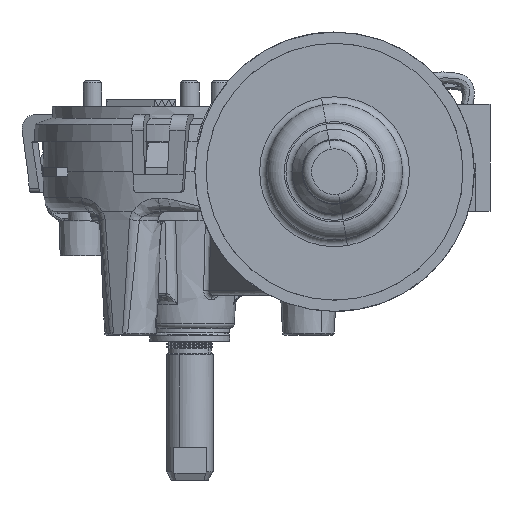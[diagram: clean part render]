
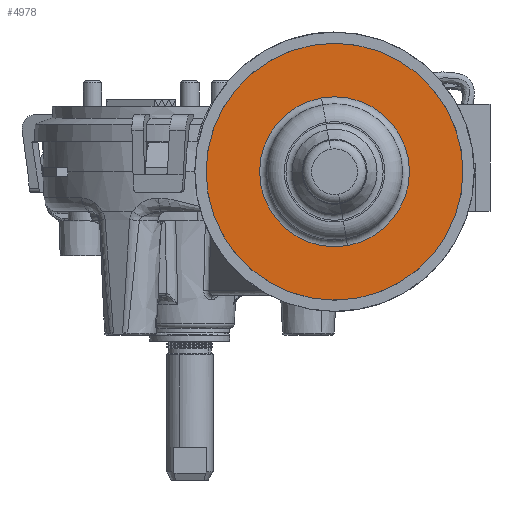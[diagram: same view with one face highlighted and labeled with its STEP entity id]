
A CAD part, front view. The second image highlights one B-rep face of the part: STEP entity #4978.
In plain terms, the highlighted planar face has unit normal (0, -1, 0).
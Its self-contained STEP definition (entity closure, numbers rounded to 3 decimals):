
#817=PLANE('',#25392);
#1111=FACE_BOUND('',#7806,.T.);
#1112=FACE_BOUND('',#7807,.T.);
#4978=ADVANCED_FACE('',(#1111,#1112),#817,.T.);
#7806=EDGE_LOOP('',(#13141,#13142,#13143,#13144,#13145,#13146,#13147,#13148,
#13149,#13150));
#7807=EDGE_LOOP('',(#13151,#13152));
#8902=CIRCLE('',#25026,27.5);
#8903=CIRCLE('',#25028,27.5);
#8904=CIRCLE('',#25029,27.5);
#8905=CIRCLE('',#25031,27.5);
#8906=CIRCLE('',#25035,27.5);
#8907=CIRCLE('',#25037,27.5);
#8908=CIRCLE('',#25039,27.5);
#8909=CIRCLE('',#25040,27.5);
#8910=CIRCLE('',#25042,27.5);
#8911=CIRCLE('',#25044,27.5);
#9021=CIRCLE('',#25390,16.05);
#9022=CIRCLE('',#25391,16.05);
#13141=ORIENTED_EDGE('',*,*,#20637,.F.);
#13142=ORIENTED_EDGE('',*,*,#20639,.F.);
#13143=ORIENTED_EDGE('',*,*,#20641,.F.);
#13144=ORIENTED_EDGE('',*,*,#20643,.F.);
#13145=ORIENTED_EDGE('',*,*,#20640,.F.);
#13146=ORIENTED_EDGE('',*,*,#20636,.F.);
#13147=ORIENTED_EDGE('',*,*,#20631,.F.);
#13148=ORIENTED_EDGE('',*,*,#20633,.F.);
#13149=ORIENTED_EDGE('',*,*,#20642,.F.);
#13150=ORIENTED_EDGE('',*,*,#20632,.F.);
#13151=ORIENTED_EDGE('',*,*,#21388,.T.);
#13152=ORIENTED_EDGE('',*,*,#21389,.T.);
#17401=VERTEX_POINT('',#36153);
#17408=VERTEX_POINT('',#36182);
#17417=VERTEX_POINT('',#36206);
#17420=VERTEX_POINT('',#36217);
#17422=VERTEX_POINT('',#36225);
#17423=VERTEX_POINT('',#36233);
#17425=VERTEX_POINT('',#36238);
#17428=VERTEX_POINT('',#36249);
#17866=VERTEX_POINT('',#40447);
#17867=VERTEX_POINT('',#40460);
#18329=VERTEX_POINT('',#46410);
#18330=VERTEX_POINT('',#46411);
#20631=EDGE_CURVE('GENERATED CIRCLE',#17401,#17866,#8902,.T.);
#20632=EDGE_CURVE('GENERATED CIRCLE',#17408,#17417,#8903,.T.);
#20633=EDGE_CURVE('GENERATED CIRCLE',#17420,#17401,#8904,.T.);
#20636=EDGE_CURVE('GENERATED CIRCLE',#17866,#17423,#8905,.T.);
#20637=EDGE_CURVE('GENERATED CIRCLE',#17867,#17408,#8906,.T.);
#20639=EDGE_CURVE('GENERATED CIRCLE',#17422,#17867,#8907,.T.);
#20640=EDGE_CURVE('GENERATED CIRCLE',#17423,#17425,#8908,.T.);
#20641=EDGE_CURVE('GENERATED CIRCLE',#17428,#17422,#8909,.T.);
#20642=EDGE_CURVE('GENERATED CIRCLE',#17417,#17420,#8910,.T.);
#20643=EDGE_CURVE('GENERATED CIRCLE',#17425,#17428,#8911,.T.);
#21388=EDGE_CURVE('GENERATED CIRCLE',#18329,#18330,#9021,.T.);
#21389=EDGE_CURVE('GENERATED CIRCLE',#18330,#18329,#9022,.T.);
#25026=AXIS2_PLACEMENT_3D('',#40448,#28087,#28088);
#25028=AXIS2_PLACEMENT_3D('',#40450,#28091,#28092);
#25029=AXIS2_PLACEMENT_3D('',#40451,#28093,#28094);
#25031=AXIS2_PLACEMENT_3D('',#40455,#28099,#28100);
#25035=AXIS2_PLACEMENT_3D('',#40459,#28107,#28108);
#25037=AXIS2_PLACEMENT_3D('',#40463,#28112,#28113);
#25039=AXIS2_PLACEMENT_3D('',#40465,#28116,#28117);
#25040=AXIS2_PLACEMENT_3D('',#40466,#28118,#28119);
#25042=AXIS2_PLACEMENT_3D('',#40468,#28122,#28123);
#25044=AXIS2_PLACEMENT_3D('',#40470,#28126,#28127);
#25390=AXIS2_PLACEMENT_3D('',#46409,#29166,#29167);
#25391=AXIS2_PLACEMENT_3D('',#46412,#29168,#29169);
#25392=AXIS2_PLACEMENT_3D('',#46413,#29170,#29171);
#28087=DIRECTION('',(0.,1.,0.));
#28088=DIRECTION('',(1.,0.,0.));
#28091=DIRECTION('',(0.,1.,0.));
#28092=DIRECTION('',(1.,0.,0.));
#28093=DIRECTION('',(0.,1.,0.));
#28094=DIRECTION('',(1.,0.,0.));
#28099=DIRECTION('',(0.,1.,0.));
#28100=DIRECTION('',(1.,0.,0.));
#28107=DIRECTION('',(0.,1.,0.));
#28108=DIRECTION('',(1.,0.,0.));
#28112=DIRECTION('',(0.,1.,0.));
#28113=DIRECTION('',(1.,0.,0.));
#28116=DIRECTION('',(0.,1.,0.));
#28117=DIRECTION('',(1.,0.,0.));
#28118=DIRECTION('',(0.,1.,0.));
#28119=DIRECTION('',(1.,0.,0.));
#28122=DIRECTION('',(0.,1.,0.));
#28123=DIRECTION('',(1.,0.,0.));
#28126=DIRECTION('',(0.,1.,0.));
#28127=DIRECTION('',(1.,0.,0.));
#29166=DIRECTION('',(0.,1.,0.));
#29167=DIRECTION('',(0.,0.,1.));
#29168=DIRECTION('',(0.,1.,0.));
#29169=DIRECTION('',(0.,0.,1.));
#29170=DIRECTION('',(0.,-1.,0.));
#29171=DIRECTION('',(-0.174,0.,0.985));
#36153=CARTESIAN_POINT('',(16.14,-112.5,183.639));
#36182=CARTESIAN_POINT('',(34.49,-112.5,133.222));
#36206=CARTESIAN_POINT('',(7.861,-112.5,145.64));
#36217=CARTESIAN_POINT('',(3.722,-112.5,157.01));
#36225=CARTESIAN_POINT('',(45.86,-112.5,137.361));
#36233=CARTESIAN_POINT('',(27.51,-112.5,187.778));
#36238=CARTESIAN_POINT('',(54.139,-112.5,175.36));
#36249=CARTESIAN_POINT('',(58.278,-112.5,163.99));
#40447=CARTESIAN_POINT('',(26.225,-112.5,187.582));
#40448=CARTESIAN_POINT('',(31.,-112.5,160.5));
#40450=CARTESIAN_POINT('',(31.,-112.5,160.5));
#40451=CARTESIAN_POINT('',(31.,-112.5,160.5));
#40455=CARTESIAN_POINT('',(31.,-112.5,160.5));
#40459=CARTESIAN_POINT('',(31.,-112.5,160.5));
#40460=CARTESIAN_POINT('',(35.775,-112.5,133.418));
#40463=CARTESIAN_POINT('',(31.,-112.5,160.5));
#40465=CARTESIAN_POINT('',(31.,-112.5,160.5));
#40466=CARTESIAN_POINT('',(31.,-112.5,160.5));
#40468=CARTESIAN_POINT('',(31.,-112.5,160.5));
#40470=CARTESIAN_POINT('',(31.,-112.5,160.5));
#46409=CARTESIAN_POINT('',(31.,-112.5,160.5));
#46410=CARTESIAN_POINT('',(33.787,-112.5,144.694));
#46411=CARTESIAN_POINT('',(28.213,-112.5,176.306));
#46412=CARTESIAN_POINT('',(31.,-112.5,160.5));
#46413=CARTESIAN_POINT('',(31.,-112.5,160.5));
